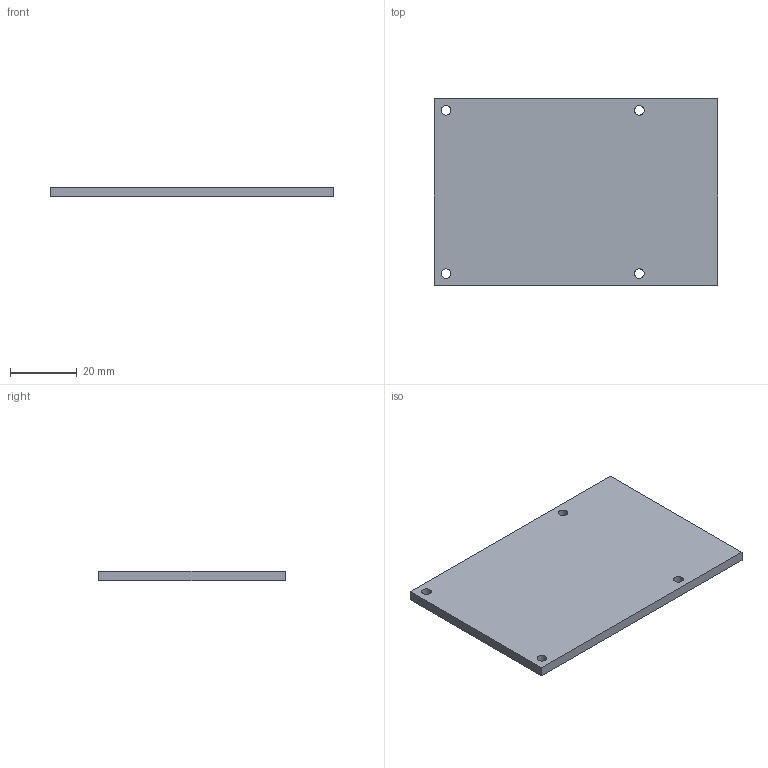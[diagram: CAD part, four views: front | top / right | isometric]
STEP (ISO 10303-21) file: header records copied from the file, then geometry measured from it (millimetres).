
FILE_DESCRIPTION(('FreeCAD Model'),'2;1');
FILE_NAME('Open CASCADE Shape Model','2026-09-11T23:31:28',('FreeCAD'),( 'FreeCAD'),'Open CASCADE STEP processor 7.8','FreeCAD','Unknown');
FILE_SCHEMA(('AUTOMOTIVE_DESIGN { 1 0 10303 214 1 1 1 1 }'));
Length unit declared in the file: millimetre
Products named in the file (1): Open CASCADE STEP translator 7.8 16
Bounding box: 85 x 56 x 3 mm (x, y, z)
Volume: 14200.7 mm3; surface area: 10422.5 mm2
Topology: 1 solids, 1 shells, 10 faces, 24 edges, 16 vertices
Faces by surface type: plane 6, cylinder 4
Full cylindrical faces by diameter (mm): 2.9 x4
Entity records: 322 total; most frequent: DIRECTION 54, CARTESIAN_POINT 51, ORIENTED_EDGE 48, EDGE_CURVE 24, AXIS2_PLACEMENT_3D 19, FACE_BOUND 18, EDGE_LOOP 18, VERTEX_POINT 16
